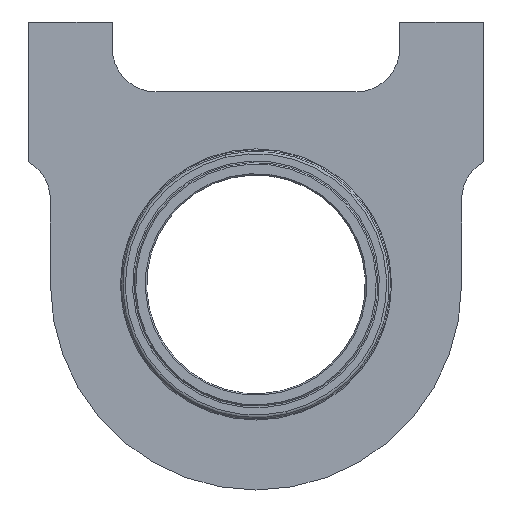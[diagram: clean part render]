
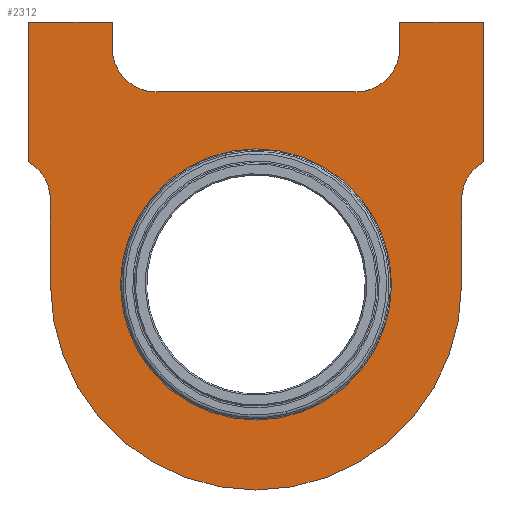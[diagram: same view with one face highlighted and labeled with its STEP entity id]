
A CAD part, front view. The second image highlights one B-rep face of the part: STEP entity #2312.
In plain terms, the highlighted planar face has unit normal (0, -1, 0).
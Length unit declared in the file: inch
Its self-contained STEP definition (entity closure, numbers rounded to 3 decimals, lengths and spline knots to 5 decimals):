
#125 = DIRECTION ( 'NONE',  ( 0., 0., 1. ) ) ;
#182 = EDGE_CURVE ( 'NONE', #4475, #7027, #4405, .T. ) ;
#279 = EDGE_CURVE ( 'NONE', #5409, #6910, #4311, .T. ) ;
#340 = AXIS2_PLACEMENT_3D ( 'NONE', #4262, #6825, #8034 ) ;
#394 = DIRECTION ( 'NONE',  ( 0., 1., 0. ) ) ;
#424 = DIRECTION ( 'NONE',  ( 0., 0., 1. ) ) ;
#469 = DIRECTION ( 'NONE',  ( 0., 0., -1. ) ) ;
#500 = DIRECTION ( 'NONE',  ( 0., 0., 1. ) ) ;
#531 = DIRECTION ( 'NONE',  ( 0., 1., 0. ) ) ;
#552 = VECTOR ( 'NONE', #2687, 39.37008 ) ;
#566 = EDGE_CURVE ( 'NONE', #7027, #2554, #1276, .T. ) ;
#604 = DIRECTION ( 'NONE',  ( 0., 0., -1. ) ) ;
#680 = VECTOR ( 'NONE', #4168, 39.37008 ) ;
#720 = CARTESIAN_POINT ( 'NONE',  ( -0.65, 0., 0.35 ) ) ;
#746 = CARTESIAN_POINT ( 'NONE',  ( 0.4106, 0., 0.675 ) ) ;
#787 = VERTEX_POINT ( 'NONE', #3835 ) ;
#854 = LINE ( 'NONE', #3252, #3209 ) ;
#888 = CARTESIAN_POINT ( 'NONE',  ( -0.5875, 0., 0.24175 ) ) ;
#934 = VERTEX_POINT ( 'NONE', #7068 ) ;
#936 = ORIENTED_EDGE ( 'NONE', *, *, #5046, .F. ) ;
#972 = CARTESIAN_POINT ( 'NONE',  ( 0., 0., 0.3875 ) ) ;
#1181 = CIRCLE ( 'NONE', #5062, 0.125 ) ;
#1276 = LINE ( 'NONE', #7007, #6843 ) ;
#1403 = DIRECTION ( 'NONE',  ( 0., 0., 1. ) ) ;
#1422 = EDGE_CURVE ( 'NONE', #2554, #5915, #6465, .T. ) ;
#1476 = VECTOR ( 'NONE', #469, 39.37008 ) ;
#1497 = AXIS2_PLACEMENT_3D ( 'NONE', #7911, #4010, #125 ) ;
#1590 = CARTESIAN_POINT ( 'NONE',  ( 0.65, 0., 0.75 ) ) ;
#1624 = DIRECTION ( 'NONE',  ( 1., 0., 0. ) ) ;
#1645 = DIRECTION ( 'NONE',  ( 0., 1., 0. ) ) ;
#1713 = DIRECTION ( 'NONE',  ( 0., 0., 1. ) ) ;
#1762 = VERTEX_POINT ( 'NONE', #7396 ) ;
#1795 = DIRECTION ( 'NONE',  ( 1., 0., 0. ) ) ;
#1803 = EDGE_CURVE ( 'NONE', #3874, #3517, #4524, .T. ) ;
#1888 = ORIENTED_EDGE ( 'NONE', *, *, #5541, .F. ) ;
#1892 = LINE ( 'NONE', #8163, #8259 ) ;
#2009 = ORIENTED_EDGE ( 'NONE', *, *, #182, .F. ) ;
#2085 = EDGE_CURVE ( 'NONE', #1762, #934, #6753, .T. ) ;
#2201 = CIRCLE ( 'NONE', #3137, 0.125 ) ;
#2218 = EDGE_CURVE ( 'NONE', #934, #6119, #8272, .T. ) ;
#2277 = CARTESIAN_POINT ( 'NONE',  ( 0., 0., -0.3875 ) ) ;
#2312 = ADVANCED_FACE ( 'NONE', ( #2896, #3806 ), #5511, .F. ) ;
#2554 = VERTEX_POINT ( 'NONE', #1590 ) ;
#2687 = DIRECTION ( 'NONE',  ( 0., 0., 1. ) ) ;
#2814 = EDGE_CURVE ( 'NONE', #4475, #5894, #2201, .T. ) ;
#2841 = VERTEX_POINT ( 'NONE', #888 ) ;
#2896 = FACE_BOUND ( 'NONE', #3659, .T. ) ;
#2991 = LINE ( 'NONE', #7065, #7954 ) ;
#3027 = ORIENTED_EDGE ( 'NONE', *, *, #4986, .F. ) ;
#3028 = CARTESIAN_POINT ( 'NONE',  ( 0., 0., 0. ) ) ;
#3137 = AXIS2_PLACEMENT_3D ( 'NONE', #5838, #3325, #1403 ) ;
#3140 = CARTESIAN_POINT ( 'NONE',  ( -0.5875, 0., 0. ) ) ;
#3209 = VECTOR ( 'NONE', #7758, 39.37008 ) ;
#3252 = CARTESIAN_POINT ( 'NONE',  ( -0.65, 0., 0.35 ) ) ;
#3271 = ORIENTED_EDGE ( 'NONE', *, *, #6326, .T. ) ;
#3283 = ORIENTED_EDGE ( 'NONE', *, *, #2218, .F. ) ;
#3325 = DIRECTION ( 'NONE',  ( 0., 1., 0. ) ) ;
#3422 = ORIENTED_EDGE ( 'NONE', *, *, #5479, .T. ) ;
#3450 = DIRECTION ( 'NONE',  ( 0., 1., 0. ) ) ;
#3452 = ORIENTED_EDGE ( 'NONE', *, *, #566, .F. ) ;
#3489 = VERTEX_POINT ( 'NONE', #4074 ) ;
#3517 = VERTEX_POINT ( 'NONE', #3890 ) ;
#3659 = EDGE_LOOP ( 'NONE', ( #3271, #4861 ) ) ;
#3784 = DIRECTION ( 'NONE',  ( 0., 1., 0. ) ) ;
#3796 = ORIENTED_EDGE ( 'NONE', *, *, #4352, .F. ) ;
#3806 = FACE_OUTER_BOUND ( 'NONE', #7351, .T. ) ;
#3835 = CARTESIAN_POINT ( 'NONE',  ( -0.5875, 0., 0. ) ) ;
#3860 = ORIENTED_EDGE ( 'NONE', *, *, #1803, .T. ) ;
#3874 = VERTEX_POINT ( 'NONE', #6078 ) ;
#3886 = CIRCLE ( 'NONE', #6037, 0.5875 ) ;
#3890 = CARTESIAN_POINT ( 'NONE',  ( -0.4106, 0., 0.675 ) ) ;
#3945 = CARTESIAN_POINT ( 'NONE',  ( -0.65, 0., 0.75 ) ) ;
#3989 = LINE ( 'NONE', #3140, #552 ) ;
#4010 = DIRECTION ( 'NONE',  ( 0., 1., 0. ) ) ;
#4074 = CARTESIAN_POINT ( 'NONE',  ( -0.4106, 0., 0.75 ) ) ;
#4168 = DIRECTION ( 'NONE',  ( 0., 0., -1. ) ) ;
#4182 = EDGE_CURVE ( 'NONE', #5909, #3489, #1892, .T. ) ;
#4204 = LINE ( 'NONE', #8344, #7774 ) ;
#4262 = CARTESIAN_POINT ( 'NONE',  ( 0., 0., 0. ) ) ;
#4311 = CIRCLE ( 'NONE', #4668, 0.3875 ) ;
#4352 = EDGE_CURVE ( 'NONE', #787, #2841, #3989, .T. ) ;
#4405 = LINE ( 'NONE', #5565, #6550 ) ;
#4475 = VERTEX_POINT ( 'NONE', #746 ) ;
#4492 = VERTEX_POINT ( 'NONE', #720 ) ;
#4524 = CIRCLE ( 'NONE', #6385, 0.125 ) ;
#4570 = CARTESIAN_POINT ( 'NONE',  ( 0.65, 0., 0.35 ) ) ;
#4626 = ORIENTED_EDGE ( 'NONE', *, *, #2814, .T. ) ;
#4668 = AXIS2_PLACEMENT_3D ( 'NONE', #6353, #531, #500 ) ;
#4797 = CIRCLE ( 'NONE', #8378, 0.125 ) ;
#4822 = ORIENTED_EDGE ( 'NONE', *, *, #4182, .F. ) ;
#4861 = ORIENTED_EDGE ( 'NONE', *, *, #279, .T. ) ;
#4986 = EDGE_CURVE ( 'NONE', #4492, #5909, #854, .T. ) ;
#4993 = AXIS2_PLACEMENT_3D ( 'NONE', #7530, #394, #1713 ) ;
#5046 = EDGE_CURVE ( 'NONE', #3489, #3517, #4204, .T. ) ;
#5062 = AXIS2_PLACEMENT_3D ( 'NONE', #7589, #3784, #8191 ) ;
#5181 = CARTESIAN_POINT ( 'NONE',  ( 0.2856, 0., 0.55 ) ) ;
#5409 = VERTEX_POINT ( 'NONE', #2277 ) ;
#5421 = CARTESIAN_POINT ( 'NONE',  ( -0.2856, 0., 0.675 ) ) ;
#5479 = EDGE_CURVE ( 'NONE', #4492, #2841, #4797, .T. ) ;
#5500 = CARTESIAN_POINT ( 'NONE',  ( 0., 0., -0.5875 ) ) ;
#5511 = PLANE ( 'NONE',  #340 ) ;
#5541 = EDGE_CURVE ( 'NONE', #3874, #5894, #2991, .T. ) ;
#5565 = CARTESIAN_POINT ( 'NONE',  ( 0.4106, 0., 0.75 ) ) ;
#5684 = ORIENTED_EDGE ( 'NONE', *, *, #2085, .F. ) ;
#5742 = CARTESIAN_POINT ( 'NONE',  ( 0.5875, 0., 0. ) ) ;
#5838 = CARTESIAN_POINT ( 'NONE',  ( 0.2856, 0., 0.675 ) ) ;
#5894 = VERTEX_POINT ( 'NONE', #5181 ) ;
#5909 = VERTEX_POINT ( 'NONE', #3945 ) ;
#5915 = VERTEX_POINT ( 'NONE', #4570 ) ;
#6037 = AXIS2_PLACEMENT_3D ( 'NONE', #3028, #7556, #424 ) ;
#6078 = CARTESIAN_POINT ( 'NONE',  ( -0.2856, 0., 0.55 ) ) ;
#6119 = VERTEX_POINT ( 'NONE', #5500 ) ;
#6254 = EDGE_CURVE ( 'NONE', #6119, #787, #3886, .T. ) ;
#6326 = EDGE_CURVE ( 'NONE', #6910, #5409, #7349, .T. ) ;
#6353 = CARTESIAN_POINT ( 'NONE',  ( 0., 0., 0. ) ) ;
#6385 = AXIS2_PLACEMENT_3D ( 'NONE', #5421, #3450, #7991 ) ;
#6465 = LINE ( 'NONE', #7415, #680 ) ;
#6550 = VECTOR ( 'NONE', #6857, 39.37008 ) ;
#6753 = LINE ( 'NONE', #5742, #1476 ) ;
#6825 = DIRECTION ( 'NONE',  ( 0., 1., 0. ) ) ;
#6843 = VECTOR ( 'NONE', #7705, 39.37008 ) ;
#6857 = DIRECTION ( 'NONE',  ( 0., 0., 1. ) ) ;
#6908 = EDGE_CURVE ( 'NONE', #1762, #5915, #1181, .T. ) ;
#6910 = VERTEX_POINT ( 'NONE', #972 ) ;
#7007 = CARTESIAN_POINT ( 'NONE',  ( 0.65, 0., 0.75 ) ) ;
#7027 = VERTEX_POINT ( 'NONE', #7730 ) ;
#7065 = CARTESIAN_POINT ( 'NONE',  ( -0.4106, 0., 0.55 ) ) ;
#7068 = CARTESIAN_POINT ( 'NONE',  ( 0.5875, 0., 0. ) ) ;
#7184 = ORIENTED_EDGE ( 'NONE', *, *, #6254, .F. ) ;
#7238 = ORIENTED_EDGE ( 'NONE', *, *, #1422, .F. ) ;
#7278 = ORIENTED_EDGE ( 'NONE', *, *, #6908, .T. ) ;
#7349 = CIRCLE ( 'NONE', #4993, 0.3875 ) ;
#7351 = EDGE_LOOP ( 'NONE', ( #3283, #5684, #7278, #7238, #3452, #2009, #4626, #1888, #3860, #936, #4822, #3027, #3422, #3796, #7184 ) ) ;
#7396 = CARTESIAN_POINT ( 'NONE',  ( 0.5875, 0., 0.24175 ) ) ;
#7415 = CARTESIAN_POINT ( 'NONE',  ( 0.65, 0., 0.35 ) ) ;
#7515 = CARTESIAN_POINT ( 'NONE',  ( -0.7125, 0., 0.24175 ) ) ;
#7530 = CARTESIAN_POINT ( 'NONE',  ( 0., 0., 0. ) ) ;
#7556 = DIRECTION ( 'NONE',  ( 0., 1., 0. ) ) ;
#7589 = CARTESIAN_POINT ( 'NONE',  ( 0.7125, 0., 0.24175 ) ) ;
#7705 = DIRECTION ( 'NONE',  ( 1., 0., 0. ) ) ;
#7730 = CARTESIAN_POINT ( 'NONE',  ( 0.4106, 0., 0.75 ) ) ;
#7758 = DIRECTION ( 'NONE',  ( 0., 0., 1. ) ) ;
#7774 = VECTOR ( 'NONE', #604, 39.37008 ) ;
#7911 = CARTESIAN_POINT ( 'NONE',  ( 0., 0., 0. ) ) ;
#7954 = VECTOR ( 'NONE', #1795, 39.37008 ) ;
#7991 = DIRECTION ( 'NONE',  ( 0., 0., 1. ) ) ;
#8034 = DIRECTION ( 'NONE',  ( 0., 0., 1. ) ) ;
#8133 = DIRECTION ( 'NONE',  ( 0., 0., 1. ) ) ;
#8163 = CARTESIAN_POINT ( 'NONE',  ( -0.65, 0., 0.75 ) ) ;
#8191 = DIRECTION ( 'NONE',  ( 0., 0., 1. ) ) ;
#8259 = VECTOR ( 'NONE', #1624, 39.37008 ) ;
#8272 = CIRCLE ( 'NONE', #1497, 0.5875 ) ;
#8344 = CARTESIAN_POINT ( 'NONE',  ( -0.4106, 0., 0.75 ) ) ;
#8378 = AXIS2_PLACEMENT_3D ( 'NONE', #7515, #1645, #8133 ) ;
